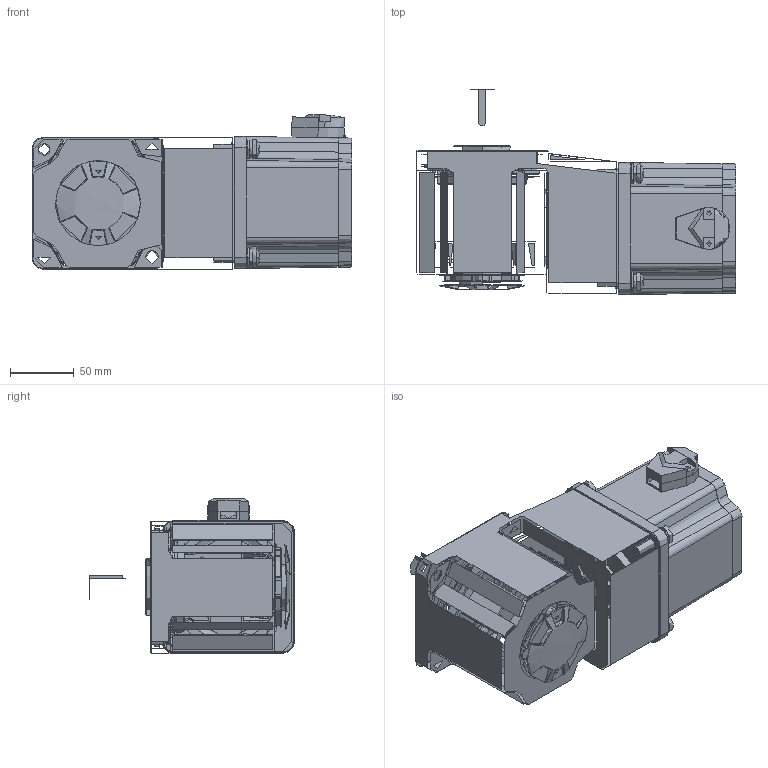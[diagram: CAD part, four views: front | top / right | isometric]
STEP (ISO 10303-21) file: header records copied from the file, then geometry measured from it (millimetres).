
FILE_DESCRIPTION (( 'STEP AP203' ), '1' );
FILE_NAME ('104RT´øÉ²³µ.STEP', '2021-05-12T07:57:29', ( 'china' ), ( 'china' ), 'SwSTEP 2.0', 'SolidWorks 2019', '' );
FILE_SCHEMA (( 'CONFIG_CONTROL_DESIGN' ));
Length unit declared in the file: millimetre
Products named in the file (19): ____7; PRODUCT_3308; ____13; PRT0002; ____8; 6RK120GU-CMFT_6GU3K__180KRC; ____12; ____2; NONE; ____4; 104__RC_ASM; ____6; ____11; 104RT湍价陬; ____10; PRODUCT_3325; ____3; ____5; PRT0001
Assembly tree (18 placements, depth 3):
  104RT湍价陬
    104__RC_ASM
      PRT0001
      ____13
      6RK120GU-CMFT_6GU3K__180KRC
      NONE
      ____6
      ____10
      ____3
      ____7
      PRT0002
      ____12
      ____4
      ____11
      PRODUCT_3325
      ____5
      PRODUCT_3308
      ____8
      ____2
Bounding box: 251.8 x 161.57 x 121.73 mm (x, y, z)
Volume: 324048.9 mm3; surface area: 724420.9 mm2
Topology: 16 solids, 25 shells, 2114 faces, 5291 edges, 3277 vertices
Faces by surface type: cylinder 677, bspline 665, plane 464, cone 308
Full cylindrical faces by diameter (mm): 0.6 x29, 1 x17, 2 x31, 2.916 x1, 2.998 x1, 2.999 x10, 3 x136, 3.001 x12, 3.002 x14, 3.004 x1, 4 x8, 6 x9, 8 x8, 9 x8, 10 x6, 11 x2, 17 x8, 18 x10, 20 x2, 21 x5, 30 x2, 35 x2, 36 x1, 42 x1, 45 x2, 46 x2, 62 x2, 90 x2
Entity records: 120814 total; most frequent: CARTESIAN_POINT 76587, ORIENTED_EDGE 10564, DIRECTION 6186, EDGE_CURVE 5290, VERTEX_POINT 3277, B_SPLINE_CURVE_WITH_KNOTS 2637, AXIS2_PLACEMENT_3D 2427, EDGE_LOOP 2233
